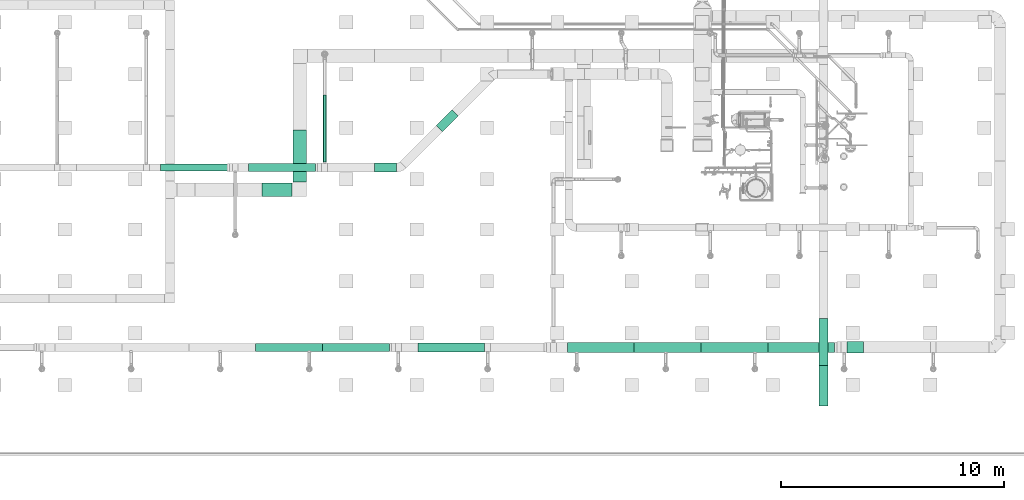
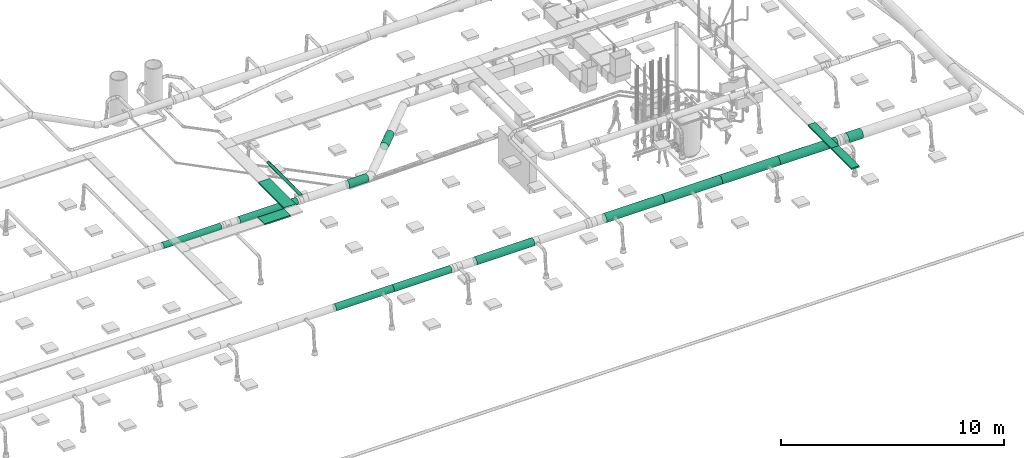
# One storey, part 4 of 374: 13 flow segments, 4 distribution elements.
"""IFC2X3 building model written with IfcOpenShell, lengths in metres."""

import ifcopenshell
import ifcopenshell.guid

model = None  # the IFC model being written
_history = None  # IfcOwnerHistory: only IFC2X3 demands one
_inside = {}  # id of a spatial element -> (the spatial element, [elements in it])
_under = {}  # id of a project, library or spatial element -> (it, [spatial elements below it])
_declared = {}  # id of a project -> (the project, [libraries it declares])
_typed = {}  # id of a type object -> (the type object, [elements of that type])
_made_of = {}  # id of a material, layer set ... -> (it, [elements and type objects made of it])


def new_model(schema):
    """Start an empty IFC model of exactly this schema.

    Asked for "IFC4X3", IfcOpenShell would pick the latest addendum, in which some entities
    have other attributes; the version numbers below select the first issue.
    IFC2X3 requires an IfcOwnerHistory on every rooted entity: one is made here for all.
    """
    global model, _history
    if schema == "IFC4X3":
        model = ifcopenshell.file(schema_version=(4, 3, 0, 0))
    else:
        model = ifcopenshell.file(schema=schema)
    _inside.clear()
    _under.clear()
    _declared.clear()
    _typed.clear()
    _made_of.clear()
    _history = None
    if model.schema == "IFC2X3":
        org = make("IfcOrganization", Name="unknown")
        user = make(
            "IfcPersonAndOrganization",
            ThePerson=make("IfcPerson", FamilyName="unknown"),
            TheOrganization=org,
        )
        app = make(
            "IfcApplication",
            ApplicationDeveloper=org,
            Version="unknown",
            ApplicationFullName="unknown",
            ApplicationIdentifier="unknown",
        )
        _history = make(
            "IfcOwnerHistory",
            OwningUser=user,
            OwningApplication=app,
            ChangeAction="ADDED",
            CreationDate=0,
        )
    return model


def make(cls, **values):
    """One entity of the class cls with the attributes given. An attribute that is None is left unset."""
    return model.create_entity(
        cls, **{name: value for name, value in values.items() if value is not None}
    )


def rooted(cls, **values):
    """An entity with a GlobalId (a new one), such as an element, a storey or a relation."""
    return make(cls, GlobalId=ifcopenshell.guid.new(), OwnerHistory=_history, **values)


def si_unit(unit_type, name, prefix=None):
    """IfcSIUnit, for example si_unit("LENGTHUNIT", "METRE", prefix="MILLI")."""
    return make("IfcSIUnit", UnitType=unit_type, Prefix=prefix, Name=name)


def assignment(units):
    """IfcUnitAssignment: the units of a project."""
    return None if units is None else make("IfcUnitAssignment", Units=units)


def point(xyz):
    """IfcCartesianPoint."""
    return None if xyz is None else make("IfcCartesianPoint", Coordinates=xyz)


def direction(xyz):
    """IfcDirection."""
    return None if xyz is None else make("IfcDirection", DirectionRatios=xyz)


def frame(location, z_axis=None, x_axis=None):
    """IfcAxis2Placement3D, a coordinate frame: its origin and axes. An axis left out is left unset."""
    return make(
        "IfcAxis2Placement3D",
        Location=point(location),
        Axis=direction(z_axis),
        RefDirection=direction(x_axis),
    )


def frame_2d(location, x_axis=None):
    """IfcAxis2Placement2D, a coordinate frame in the plane: its origin and x axis."""
    return make(
        "IfcAxis2Placement2D", Location=point(location), RefDirection=direction(x_axis)
    )


def origin():
    """The frame at (0, 0, 0) with its axes left unset."""
    return frame((0.0, 0.0, 0.0))


def place(relative_to, where):
    """IfcLocalPlacement: puts the frame where relative to a parent placement (None: the world)."""
    return make(
        "IfcLocalPlacement", PlacementRelTo=relative_to, RelativePlacement=where
    )


def context(
    kind, dimensions, precision=None, world=None, true_north=None, identifier=None
):
    """IfcGeometricRepresentationContext, for example the 3D "Model" context."""
    return make(
        "IfcGeometricRepresentationContext",
        ContextIdentifier=identifier,
        ContextType=kind,
        CoordinateSpaceDimension=dimensions,
        Precision=precision,
        WorldCoordinateSystem=world,
        TrueNorth=true_north,
    )


def subcontext(parent, identifier, kind, view, scale=None):
    """IfcGeometricRepresentationSubContext, for example "Body" below "Model"."""
    return make(
        "IfcGeometricRepresentationSubContext",
        ContextIdentifier=identifier,
        ContextType=kind,
        ParentContext=parent,
        TargetScale=scale,
        TargetView=view,
    )


def project(units=None, contexts=None):
    """IfcProject with its units and contexts."""
    return rooted(
        "IfcProject",
        Name="project",
        RepresentationContexts=contexts,
        UnitsInContext=assignment(units),
    )


def spatial(cls, under=None, at=None, **own):
    """A site, building, storey or space (cls), placed at a placement, below another one or the project."""
    s = rooted(cls, ObjectPlacement=at, **own)
    if under is not None:
        _under.setdefault(under.id(), (under, []))[1].append(s)
    return s


def profile(cls, at=None, kind="AREA", **sizes):
    """A parametric profile (cls). Its sizes go by their IFC names, for example OverallWidth=200.0."""
    return make(cls, ProfileType=kind, Position=at, **sizes)


def rectangle(**sizes):
    """IfcRectangleProfileDef."""
    return profile("IfcRectangleProfileDef", **sizes)


def extrude(swept, where, along, depth):
    """IfcExtrudedAreaSolid: the profile swept, set in the frame where, extruded along a direction by depth."""
    return make(
        "IfcExtrudedAreaSolid",
        SweptArea=swept,
        Position=where,
        ExtrudedDirection=direction(along),
        Depth=depth,
    )


def faces_of(points, faces, orient=None, outer=None):
    """IfcFace entities. A face is a list of loops; a loop is a list of indices into points, from 0.

    orient and outer hold one flag for each loop. By default every Orientation is true, the
    first loop of a face is its IfcFaceOuterBound and the others are IfcFaceBound.
    """
    made = []
    for i, loops in enumerate(faces):
        bounds = []
        for j, loop in enumerate(loops):
            is_outer = j == 0 if outer is None else outer[i][j]
            bounds.append(
                make(
                    "IfcFaceOuterBound" if is_outer else "IfcFaceBound",
                    Bound=make("IfcPolyLoop", Polygon=[points[k] for k in loop]),
                    Orientation=True if orient is None else orient[i][j],
                )
            )
        made.append(make("IfcFace", Bounds=bounds))
    return made


def open_shell(faces, orient=None, outer=None):
    """The faces of one IfcOpenShell. surface_model builds it on its shared points."""
    return ("IfcOpenShell", faces, orient, outer)


def surface_model(cls, points, shells):
    """IfcFaceBasedSurfaceModel or IfcShellBasedSurfaceModel (cls): surfaces that need not close."""
    shared = [point(p) for p in points]
    made = [make(c, CfsFaces=faces_of(shared, fs, o, b)) for c, fs, o, b in shells]
    if cls == "IfcFaceBasedSurfaceModel":
        return make(cls, FbsmFaces=made)
    return make(cls, SbsmBoundary=made)


def shape(context_of_items, identifier, shape_type, items):
    """IfcShapeRepresentation: the items that make up one representation, for example the "Body"."""
    return make(
        "IfcShapeRepresentation",
        ContextOfItems=context_of_items,
        RepresentationIdentifier=identifier,
        RepresentationType=shape_type,
        Items=items,
    )


def source(mapping_origin, context_of_items, identifier, shape_type, items):
    """IfcRepresentationMap: a shape defined once, which mapped items show again and again."""
    return make(
        "IfcRepresentationMap",
        MappingOrigin=mapping_origin,
        MappedRepresentation=shape(context_of_items, identifier, shape_type, items),
    )


def transform(
    local_origin,
    x_axis=None,
    y_axis=None,
    z_axis=None,
    scale=None,
    scale2=None,
    scale3=None,
    uniform=True,
):
    """IfcCartesianTransformationOperator3D, or its non-uniform kind. x_axis, y_axis, z_axis: its Axis1, 2, 3."""
    if uniform:
        return make(
            "IfcCartesianTransformationOperator3D",
            Axis1=direction(x_axis),
            Axis2=direction(y_axis),
            LocalOrigin=point(local_origin),
            Scale=scale,
            Axis3=direction(z_axis),
        )
    return make(
        "IfcCartesianTransformationOperator3DnonUniform",
        Axis1=direction(x_axis),
        Axis2=direction(y_axis),
        LocalOrigin=point(local_origin),
        Scale=scale,
        Axis3=direction(z_axis),
        Scale2=scale2,
        Scale3=scale3,
    )


def mapped(mapping_source, mapping_target):
    """IfcMappedItem: shows the shape of a source again, moved by a transform."""
    return make(
        "IfcMappedItem", MappingSource=mapping_source, MappingTarget=mapping_target
    )


def made_of(thing, what):
    """Note that an element or type object is made of a material, layer set ...; save() writes the relation."""
    if what is not None:
        _made_of.setdefault(what.id(), (what, []))[1].append(thing)
    return thing


def element(
    cls,
    number,
    at=None,
    inside=None,
    cuts=None,
    type_object=None,
    material=None,
    context=None,
    identifier="Body",
    shape_type=None,
    held_by="IfcProductDefinitionShape",
    body=None,
    shapes=None,
    **own,
):
    """One element of the class cls, such as IfcWall. Its Tag is "e" and its number.

    at: its placement. inside: the storey or other place that contains it. cuts: it is an
    opening in that element (IfcRelVoidsElement). A single representation is given by context,
    identifier, shape_type and body (its items); several are given by shapes. held_by: the class
    of the entity that holds the representations. save() writes the other relations.
    """
    e = rooted(cls, Tag="e%d" % number, ObjectPlacement=at, **own)
    if body is not None:
        shapes = [shape(context, identifier, shape_type, body)]
    if shapes is not None:
        e.Representation = make(held_by, Representations=shapes)
    if inside is not None:
        _inside.setdefault(inside.id(), (inside, []))[1].append(e)
    if cuts is not None:
        rooted(
            "IfcRelVoidsElement", RelatingBuildingElement=cuts, RelatedOpeningElement=e
        )
    if type_object is not None:
        _typed.setdefault(type_object.id(), (type_object, []))[1].append(e)
    return made_of(e, material)


def aggregate(whole, parts):
    """IfcRelAggregates: a whole, such as a stair, and the parts it consists of."""
    return rooted("IfcRelAggregates", RelatingObject=whole, RelatedObjects=parts)


def save(model, path):
    """Write the relations noted so far, then the file.

    IfcRelAggregates (storeys below a building ...), IfcRelContainedInSpatialStructure (elements
    in a storey), IfcRelDefinesByType, IfcRelAssociatesMaterial and IfcRelDeclares: one each for
    every whole, place, type object, material and project.
    """
    for whole, parts in _under.values():
        aggregate(whole, parts)
    for where, things in _inside.values():
        rooted(
            "IfcRelContainedInSpatialStructure",
            RelatedElements=things,
            RelatingStructure=where,
        )
    for kind, things in _typed.values():
        rooted("IfcRelDefinesByType", RelatedObjects=things, RelatingType=kind)
    for what, things in _made_of.values():
        rooted("IfcRelAssociatesMaterial", RelatedObjects=things, RelatingMaterial=what)
    for by, libraries in _declared.values():
        rooted("IfcRelDeclares", RelatingContext=by, RelatedDefinitions=libraries)
    model.write(path)


model = new_model("IFC2X3")

# Units and contexts
model_context = context("Model", 3, precision=1e-05, world=origin(), true_north=direction((-0.4480736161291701, 0.8939966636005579)))
body_context = subcontext(model_context, "Body", "Model", "MODEL_VIEW")
ifc_project = project(units=[si_unit("LENGTHUNIT", "METRE"), si_unit("AREAUNIT", "SQUARE_METRE"), si_unit("VOLUMEUNIT", "CUBIC_METRE"), si_unit("PLANEANGLEUNIT", "RADIAN"), si_unit("THERMODYNAMICTEMPERATUREUNIT", "KELVIN"), si_unit("MASSUNIT", "GRAM", prefix="KILO"), si_unit("TIMEUNIT", "SECOND")], contexts=[model_context])

# Site, building, storey
site_placement = place(None, origin())
site = spatial("IfcSite", under=ifc_project, at=site_placement, Name="Site 1", CompositionType="ELEMENT")
building_placement = place(site_placement, origin())
building = spatial("IfcBuilding", under=site, at=building_placement, Name="Undefined", CompositionType="ELEMENT")
storey_placement = place(building_placement, origin())
storey = spatial("IfcBuildingStorey", under=building, at=storey_placement, Name="Rez de chauss\x8ee", CompositionType="ELEMENT", Elevation=0.0)

# Flow segments
shared_shape_1 = source(origin(), body_context, "Body", "SurfaceModel", [
    surface_model("IfcFaceBasedSurfaceModel", [(0.0, 0.05221047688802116, -8.8817842e-16), (0.0, 0.0, 0.0), (3.0, 0.0, 0.0), (3.0, 0.05221047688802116, -8.8817842e-16), (0.0, -0.05043144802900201, -0.013513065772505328), (3.0, -0.05043144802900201, -0.013513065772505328), (0.0, -0.09564704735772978, -0.0396183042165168), (3.0, -0.09564704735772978, -0.0396183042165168), (0.0, -0.1325654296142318, -0.07653668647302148), (3.0, -0.1325654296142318, -0.07653668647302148), (0.0, -0.15867066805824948, -0.12175228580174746), (3.0, -0.15867066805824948, -0.12175228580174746), (0.0, -0.17218373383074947, -0.17218373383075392), (3.0, -0.17218373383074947, -0.17218373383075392), (0.0, -0.17218373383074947, -0.22439421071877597), (3.0, -0.17218373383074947, -0.22439421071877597), (0.0, -0.15867066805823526, -0.2748256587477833), (3.0, -0.15867066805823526, -0.2748256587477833), (0.0, -0.1325654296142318, -0.3200412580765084), (3.0, -0.1325654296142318, -0.3200412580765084), (0.0, -0.09564704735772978, -0.35695964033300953), (3.0, -0.09564704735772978, -0.35695964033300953), (0.0, -0.050431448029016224, -0.3830648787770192), (3.0, -0.050431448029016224, -0.3830648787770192), (0.0, 0.0, -0.39657794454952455), (3.0, 0.0, -0.39657794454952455), (0.0, 0.05221047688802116, -0.3965779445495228), (3.0, 0.05221047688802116, -0.3965779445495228), (0.0, 0.10264192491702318, -0.38306487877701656), (3.0, 0.10264192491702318, -0.38306487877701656), (0.0, 0.14785752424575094, -0.356959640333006), (3.0, 0.14785752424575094, -0.356959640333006), (0.0, 0.18477590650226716, -0.32004125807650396), (3.0, 0.18477590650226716, -0.32004125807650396), (0.0, 0.21088114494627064, -0.2748256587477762), (3.0, 0.21088114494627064, -0.2748256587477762), (0.0, 0.22439421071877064, -0.22439421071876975), (3.0, 0.22439421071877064, -0.22439421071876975), (0.0, 0.22439421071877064, -0.1721837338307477), (3.0, 0.22439421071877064, -0.1721837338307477), (0.0, 0.21088114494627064, -0.12175228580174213), (3.0, 0.21088114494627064, -0.12175228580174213), (0.0, 0.18477590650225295, -0.07653668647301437), (3.0, 0.18477590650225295, -0.07653668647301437), (0.0, 0.14785752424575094, -0.03961830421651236), (3.0, 0.14785752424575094, -0.03961830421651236), (0.0, 0.10264192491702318, -0.013513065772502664), (3.0, 0.10264192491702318, -0.013513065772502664)], [open_shell([[[0, 1, 2, 3]], [[1, 4, 5, 2]], [[4, 6, 7, 5]], [[6, 8, 9, 7]], [[8, 10, 11, 9]], [[10, 12, 13, 11]], [[12, 14, 15, 13]], [[14, 16, 17, 15]], [[16, 18, 19, 17]], [[18, 20, 21, 19]], [[20, 22, 23, 21]], [[22, 24, 25, 23]], [[24, 26, 27, 25]], [[26, 28, 29, 27]], [[28, 30, 31, 29]], [[30, 32, 33, 31]], [[32, 34, 35, 33]], [[34, 36, 37, 35]], [[36, 38, 39, 37]], [[38, 40, 41, 39]], [[40, 42, 43, 41]], [[42, 44, 45, 43]], [[44, 46, 47, 45]], [[46, 0, 3, 47]]])]),
])
flow_segment_1_placement = place(storey_placement, origin())
element("IfcFlowSegment", 1, at=flow_segment_1_placement, inside=storey, Name="Tube", ObjectType="Tube", context=body_context, shape_type="MappedRepresentation", body=[
    mapped(shared_shape_1, transform((42.16000111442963, 2.903061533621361, 3.9931851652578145), x_axis=(-1.0, 0.0, 0.0), y_axis=(7.266545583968e-12, -0.9914448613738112, 0.13052619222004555), z_axis=(0.0, 0.13052619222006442, 0.9914448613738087))),
])
shared_shape_2 = source(origin(), body_context, "Body", "SurfaceModel", [
    surface_model("IfcFaceBasedSurfaceModel", [(0.0, 0.046336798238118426, 0.0), (0.0, 0.0, 0.0), (3.0, 0.0, 0.0), (3.0, 0.046336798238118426, 0.0), (0.0, -0.044757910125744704, -0.0119928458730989), (3.0, -0.044757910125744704, -0.0119928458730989), (0.0, -0.08488675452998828, -0.035161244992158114), (3.0, -0.08488675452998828, -0.035161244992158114), (0.0, -0.11765181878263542, -0.06792630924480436), (3.0, -0.11765181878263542, -0.06792630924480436), (0.0, -0.1408202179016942, -0.10805515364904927), (3.0, -0.1408202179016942, -0.10805515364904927), (0.0, -0.15281306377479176, -0.15281306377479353), (3.0, -0.15281306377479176, -0.15281306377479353), (0.0, -0.1528130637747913, -0.19914986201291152), (3.0, -0.1528130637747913, -0.19914986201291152), (0.0, -0.14082021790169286, -0.24390777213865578), (3.0, -0.14082021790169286, -0.24390777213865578), (0.0, -0.11765181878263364, -0.2840366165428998), (3.0, -0.11765181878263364, -0.2840366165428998), (0.0, -0.0848867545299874, -0.31680168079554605), (3.0, -0.0848867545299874, -0.31680168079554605), (0.0, -0.044757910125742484, -0.3399700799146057), (3.0, -0.044757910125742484, -0.3399700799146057), (0.0, 1.776356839e-15, -0.35196292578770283), (3.0, 1.776356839e-15, -0.35196292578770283), (0.0, 0.0463367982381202, -0.3519629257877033), (3.0, 0.0463367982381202, -0.3519629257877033), (0.0, 0.09109470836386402, -0.3399700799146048), (3.0, 0.09109470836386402, -0.3399700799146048), (0.0, 0.13122355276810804, -0.31680168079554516), (3.0, 0.13122355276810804, -0.31680168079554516), (0.0, 0.16398861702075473, -0.2840366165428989), (3.0, 0.16398861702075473, -0.2840366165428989), (0.0, 0.18715701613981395, -0.243907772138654), (3.0, 0.18715701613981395, -0.243907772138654), (0.0, 0.19914986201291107, -0.19914986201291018), (3.0, 0.19914986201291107, -0.19914986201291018), (0.0, 0.19914986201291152, -0.15281306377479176), (3.0, 0.19914986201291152, -0.15281306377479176), (0.0, 0.18715701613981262, -0.1080551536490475), (3.0, 0.18715701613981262, -0.1080551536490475), (0.0, 0.1639886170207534, -0.06792630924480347), (3.0, 0.1639886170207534, -0.06792630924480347), (0.0, 0.1312235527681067, -0.03516124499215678), (3.0, 0.1312235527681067, -0.03516124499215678), (0.0, 0.09109470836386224, -0.011992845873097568), (3.0, 0.09109470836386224, -0.011992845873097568)], [open_shell([[[0, 1, 2, 3]], [[1, 4, 5, 2]], [[4, 6, 7, 5]], [[6, 8, 9, 7]], [[8, 10, 11, 9]], [[10, 12, 13, 11]], [[12, 14, 15, 13]], [[14, 16, 17, 15]], [[16, 18, 19, 17]], [[18, 20, 21, 19]], [[20, 22, 23, 21]], [[22, 24, 25, 23]], [[24, 26, 27, 25]], [[26, 28, 29, 27]], [[28, 30, 31, 29]], [[30, 32, 33, 31]], [[32, 34, 35, 33]], [[34, 36, 37, 35]], [[36, 38, 39, 37]], [[38, 40, 41, 39]], [[40, 42, 43, 41]], [[42, 44, 45, 43]], [[44, 46, 47, 45]], [[46, 0, 3, 47]]])]),
])
flow_segment_2_placement = place(storey_placement, origin())
element("IfcFlowSegment", 2, at=flow_segment_2_placement, inside=storey, Name="Tube", ObjectType="Tube", context=body_context, shape_type="MappedRepresentation", body=[
    mapped(shared_shape_2, transform((34.568995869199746, 10.9651343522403, 3.9714518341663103), x_axis=(-1.0, 0.0, 0.0), y_axis=(7.266545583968e-12, -0.9914448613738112, 0.13052619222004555), z_axis=(0.0, 0.13052619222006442, 0.9914448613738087))),
])
flow_segment_3_placement = place(storey_placement, origin())
element("IfcFlowSegment", 3, at=flow_segment_3_placement, inside=storey, Name="Tube", ObjectType="Tube", context=body_context, shape_type="MappedRepresentation", body=[
    mapped(shared_shape_2, transform((37.883001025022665, 2.897238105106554, 3.9714518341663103), x_axis=(-1.0, 0.0, 0.0), y_axis=(7.266545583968e-12, -0.9914448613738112, 0.13052619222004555), z_axis=(0.0, 0.13052619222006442, 0.9914448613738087))),
])
flow_segment_4_placement = place(storey_placement, origin())
element("IfcFlowSegment", 4, at=flow_segment_4_placement, inside=storey, Name="Tube", ObjectType="Tube", context=body_context, shape_type="MappedRepresentation", body=[
    mapped(shared_shape_2, transform((34.883001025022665, 2.897238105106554, 3.9714518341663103), x_axis=(-1.0, 0.0, 0.0), y_axis=(7.266545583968e-12, -0.9914448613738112, 0.13052619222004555), z_axis=(0.0, 0.13052619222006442, 0.9914448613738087))),
])
shared_shape_3 = source(origin(), body_context, "Body", "SurfaceModel", [
    surface_model("IfcFaceBasedSurfaceModel", [(0.0, 0.04111575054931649, 0.0), (0.0, 0.0, 0.0), (3.0, 0.0, 0.0), (3.0, 0.04111575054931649, 0.0), (0.0, -0.03971476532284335, -0.010641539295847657), (3.0, -0.03971476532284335, -0.010641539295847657), (0.0, -0.0753220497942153, -0.0311994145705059), (3.0, -0.0753220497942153, -0.0311994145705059), (0.0, -0.10439527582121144, -0.060272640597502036), (3.0, -0.10439527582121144, -0.060272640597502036), (0.0, -0.12495315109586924, -0.09587992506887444), (3.0, -0.12495315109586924, -0.09587992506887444), (0.0, -0.13559469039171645, -0.13559469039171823), (3.0, -0.13559469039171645, -0.13559469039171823), (0.0, -0.135594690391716, -0.17671044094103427), (3.0, -0.135594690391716, -0.17671044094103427), (0.0, -0.1249531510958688, -0.21642520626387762), (3.0, -0.1249531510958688, -0.21642520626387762), (0.0, -0.10439527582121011, -0.2520324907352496), (3.0, -0.10439527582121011, -0.2520324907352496), (0.0, -0.07532204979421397, -0.2811057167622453), (3.0, -0.07532204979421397, -0.2811057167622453), (0.0, -0.039714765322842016, -0.3016635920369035), (3.0, -0.039714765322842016, -0.3016635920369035), (0.0, 1.776356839e-15, -0.3123051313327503), (3.0, 1.776356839e-15, -0.3123051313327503), (0.0, 0.041115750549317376, -0.31230513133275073), (3.0, 0.041115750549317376, -0.31230513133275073), (0.0, 0.08083051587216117, -0.30166359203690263), (3.0, 0.08083051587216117, -0.30166359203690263), (0.0, 0.11643780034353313, -0.28110571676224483), (3.0, 0.11643780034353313, -0.28110571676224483), (0.0, 0.14551102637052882, -0.25203249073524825), (3.0, 0.14551102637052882, -0.25203249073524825), (0.0, 0.16606890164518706, -0.2164252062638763), (3.0, 0.16606890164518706, -0.2164252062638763), (0.0, 0.17671044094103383, -0.1767104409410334), (3.0, 0.17671044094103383, -0.1767104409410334), (0.0, 0.17671044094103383, -0.1355946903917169), (3.0, 0.17671044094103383, -0.1355946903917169), (0.0, 0.16606890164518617, -0.09587992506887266), (3.0, 0.16606890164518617, -0.09587992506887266), (0.0, 0.14551102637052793, -0.06027264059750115), (3.0, 0.14551102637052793, -0.06027264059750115), (0.0, 0.1164378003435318, -0.031199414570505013), (3.0, 0.1164378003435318, -0.031199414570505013), (0.0, 0.08083051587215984, -0.010641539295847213), (3.0, 0.08083051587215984, -0.010641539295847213)], [open_shell([[[0, 1, 2, 3]], [[1, 4, 5, 2]], [[4, 6, 7, 5]], [[6, 8, 9, 7]], [[8, 10, 11, 9]], [[10, 12, 13, 11]], [[12, 14, 15, 13]], [[14, 16, 17, 15]], [[16, 18, 19, 17]], [[18, 20, 21, 19]], [[20, 22, 23, 21]], [[22, 24, 25, 23]], [[24, 26, 27, 25]], [[26, 28, 29, 27]], [[28, 30, 31, 29]], [[30, 32, 33, 31]], [[32, 34, 35, 33]], [[34, 36, 37, 35]], [[36, 38, 39, 37]], [[38, 40, 41, 39]], [[40, 42, 43, 41]], [[42, 44, 45, 43]], [[44, 46, 47, 45]], [[46, 0, 3, 47]]])]),
])
flow_segment_5_placement = place(storey_placement, origin())
element("IfcFlowSegment", 5, at=flow_segment_5_placement, inside=storey, Name="Tube", ObjectType="Tube", context=body_context, shape_type="MappedRepresentation", body=[
    mapped(shared_shape_3, transform((30.614625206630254, 10.95995797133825, 3.952133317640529), x_axis=(-1.0, 0.0, 0.0), y_axis=(7.266545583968e-12, -0.9914448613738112, 0.13052619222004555), z_axis=(0.0, 0.13052619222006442, 0.9914448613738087))),
])
shared_shape_4 = source(origin(), body_context, "Body", "SurfaceModel", [
    surface_model("IfcFaceBasedSurfaceModel", [(0.0, 0.020884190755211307, 0.0), (0.0, 0.0, 0.0), (3.0, 0.0, 0.0), (3.0, 0.020884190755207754, -4.4408921e-16), (0.0, -0.020172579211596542, -0.005405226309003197), (3.0, -0.020172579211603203, -0.005405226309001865), (0.0, -0.03825881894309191, -0.015847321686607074), (3.0, -0.03825881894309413, -0.015847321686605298), (0.0, -0.05302617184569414, -0.0306146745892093), (3.0, -0.053026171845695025, -0.030614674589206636), (0.0, -0.06346826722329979, -0.04870091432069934), (3.0, -0.06346826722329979, -0.04870091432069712), (0.0, -0.06887349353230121, -0.06887349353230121), (3.0, -0.0688734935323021, -0.06887349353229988), (0.0, -0.06887349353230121, -0.08975768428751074), (3.0, -0.0688734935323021, -0.08975768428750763), (0.0, -0.06346826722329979, -0.10993026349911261), (3.0, -0.06346826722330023, -0.10993026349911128), (0.0, -0.05302617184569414, -0.12801650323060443), (3.0, -0.0530261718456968, -0.12801650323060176), (0.0, -0.038258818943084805, -0.14278385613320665), (3.0, -0.03825881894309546, -0.1427838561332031), (0.0, -0.020172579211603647, -0.15322595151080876), (3.0, -0.020172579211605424, -0.15322595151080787), (0.0, 7.105427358e-15, -0.15863117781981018), (3.0, -2.664535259e-15, -0.15863117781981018), (0.0, 0.020884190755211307, -0.15863117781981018), (3.0, 0.020884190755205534, -0.15863117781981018), (0.0, 0.04105676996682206, -0.15322595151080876), (3.0, 0.04105676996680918, -0.1532259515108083), (0.0, 0.05914300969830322, -0.1427838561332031), (3.0, 0.059143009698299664, -0.14278385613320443), (0.0, 0.07391036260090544, -0.12801650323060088), (3.0, 0.073910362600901, -0.12801650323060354), (0.0, 0.0843524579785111, -0.10993026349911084), (3.0, 0.08435245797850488, -0.10993026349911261), (0.0, 0.08975768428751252, -0.08975768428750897), (3.0, 0.08975768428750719, -0.08975768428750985), (0.0, 0.08975768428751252, -0.06887349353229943), (3.0, 0.08975768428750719, -0.0688734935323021), (0.0, 0.0843524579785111, -0.048700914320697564), (3.0, 0.08435245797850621, -0.048700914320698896), (0.0, 0.07391036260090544, -0.030614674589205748), (3.0, 0.07391036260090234, -0.03061467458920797), (0.0, 0.05914300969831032, -0.015847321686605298), (3.0, 0.05914300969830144, -0.015847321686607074), (0.0, 0.04105676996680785, -0.005405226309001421), (3.0, 0.041056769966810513, -0.005405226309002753)], [open_shell([[[0, 1, 2, 3]], [[1, 4, 5, 2]], [[4, 6, 7, 5]], [[6, 8, 9, 7]], [[8, 10, 11, 9]], [[10, 12, 13, 11]], [[12, 14, 15, 13]], [[14, 16, 17, 15]], [[16, 18, 19, 17]], [[18, 20, 21, 19]], [[20, 22, 23, 21]], [[22, 24, 25, 23]], [[24, 26, 27, 25]], [[26, 28, 29, 27]], [[28, 30, 31, 29]], [[30, 32, 33, 31]], [[32, 34, 35, 33]], [[34, 36, 37, 35]], [[36, 38, 39, 37]], [[38, 40, 41, 39]], [[40, 42, 43, 41]], [[42, 44, 45, 43]], [[44, 46, 47, 45]], [[46, 0, 3, 47]]])]),
])
flow_segment_6_placement = place(storey_placement, origin())
element("IfcFlowSegment", 6, at=flow_segment_6_placement, inside=storey, Name="Tube", ObjectType="Tube", context=body_context, shape_type="MappedRepresentation", body=[
    mapped(shared_shape_4, transform((34.99670139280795, 11.169193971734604, 3.877274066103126), x_axis=(0.0, 1.0, 0.0), y_axis=(-0.9914448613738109, 0.0, 0.1305261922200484), z_axis=(0.1305261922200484, 0.0, 0.9914448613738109))),
])
shared_shape_5 = source(origin(), body_context, "Body", "SurfaceModel", [
    surface_model("IfcFaceBasedSurfaceModel", [(0.0, 0.05873678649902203, -2.77555756e-16), (0.0, 0.0, 0.0), (3.0, 0.0, 0.0), (3.0, 0.05873678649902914, 8.8817842e-16), (0.0, -0.05673537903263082, -0.015202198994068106), (3.0, -0.05673537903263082, -0.015202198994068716), (0.0, -0.10760292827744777, -0.044570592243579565), (3.0, -0.10760292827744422, -0.04457059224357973), (0.0, -0.14913610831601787, -0.08610377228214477), (3.0, -0.14913610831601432, -0.08610377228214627), (0.0, -0.1785045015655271, -0.13697132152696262), (3.0, -0.17850450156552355, -0.13697132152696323), (0.0, -0.19370670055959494, -0.1937067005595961), (3.0, -0.19370670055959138, -0.1937067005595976), (0.0, -0.19370670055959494, -0.252443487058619), (3.0, -0.19370670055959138, -0.25244348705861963), (0.0, -0.1785045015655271, -0.30917886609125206), (3.0, -0.1785045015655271, -0.309178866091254), (0.0, -0.14913610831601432, -0.36004641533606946), (3.0, -0.1491361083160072, -0.36004641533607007), (0.0, -0.10760292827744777, -0.40157959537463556), (3.0, -0.10760292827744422, -0.4015795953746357), (0.0, -0.05673537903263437, -0.43094798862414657), (3.0, -0.05673537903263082, -0.43094798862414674), (0.0, 0.0, -0.4461501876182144), (3.0, 1.0658141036e-14, -0.44615018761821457), (0.0, 0.058736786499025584, -0.4461501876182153), (3.0, 0.05873678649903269, -0.44615018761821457), (0.0, 0.1154721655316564, -0.430947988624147), (3.0, 0.1154721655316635, -0.43094798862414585), (0.0, 0.16633971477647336, -0.4015795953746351), (3.0, 0.16633971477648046, -0.40157959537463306), (0.0, 0.20787289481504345, -0.3600464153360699), (3.0, 0.207872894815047, -0.3600464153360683), (0.0, 0.23724128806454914, -0.3091788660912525), (3.0, 0.23724128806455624, -0.30917886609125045), (0.0, 0.25244348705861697, -0.25244348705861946), (3.0, 0.25244348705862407, -0.25244348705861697), (0.0, 0.25244348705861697, -0.1937067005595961), (3.0, 0.25244348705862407, -0.19370670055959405), (0.0, 0.2372412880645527, -0.13697132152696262), (3.0, 0.2372412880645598, -0.13697132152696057), (0.0, 0.2078728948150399, -0.08610377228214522), (3.0, 0.20787289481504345, -0.08610377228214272), (0.0, 0.16633971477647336, -0.044570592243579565), (3.0, 0.1663397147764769, -0.044570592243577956), (0.0, 0.11547216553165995, -0.01520219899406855), (3.0, 0.1154721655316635, -0.01520219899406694)], [open_shell([[[0, 1, 2, 3]], [[1, 4, 5, 2]], [[4, 6, 7, 5]], [[6, 8, 9, 7]], [[8, 10, 11, 9]], [[10, 12, 13, 11]], [[12, 14, 15, 13]], [[14, 16, 17, 15]], [[16, 18, 19, 17]], [[18, 20, 21, 19]], [[20, 22, 23, 21]], [[22, 24, 25, 23]], [[24, 26, 27, 25]], [[26, 28, 29, 27]], [[28, 30, 31, 29]], [[30, 32, 33, 31]], [[32, 34, 35, 33]], [[34, 36, 37, 35]], [[36, 38, 39, 37]], [[38, 40, 41, 39]], [[40, 42, 43, 41]], [[42, 44, 45, 43]], [[44, 46, 47, 45]], [[46, 0, 3, 47]]])]),
])
flow_segment_7_placement = place(storey_placement, origin())
element("IfcFlowSegment", 7, at=flow_segment_7_placement, inside=storey, Name="Tube", ObjectType="Tube", context=body_context, shape_type="MappedRepresentation", body=[
    mapped(shared_shape_5, transform((57.8710014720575, 2.909532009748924, 4.017333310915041), x_axis=(-1.0, 0.0, 0.0), y_axis=(7.266545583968e-12, -0.9914448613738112, 0.13052619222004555), z_axis=(0.0, 0.13052619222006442, 0.9914448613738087))),
])
flow_segment_8_placement = place(storey_placement, origin())
element("IfcFlowSegment", 8, at=flow_segment_8_placement, inside=storey, Name="Tube", ObjectType="Tube", context=body_context, shape_type="MappedRepresentation", body=[
    mapped(shared_shape_5, transform((54.8710014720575, 2.909532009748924, 4.017333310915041), x_axis=(-1.0, 0.0, 0.0), y_axis=(7.266545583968e-12, -0.9914448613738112, 0.13052619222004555), z_axis=(0.0, 0.13052619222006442, 0.9914448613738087))),
])
flow_segment_9_placement = place(storey_placement, origin())
element("IfcFlowSegment", 9, at=flow_segment_9_placement, inside=storey, Name="Tube", ObjectType="Tube", context=body_context, shape_type="MappedRepresentation", body=[
    mapped(shared_shape_5, transform((51.8710014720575, 2.909532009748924, 4.017333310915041), x_axis=(-1.0, 0.0, 0.0), y_axis=(7.266545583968e-12, -0.9914448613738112, 0.13052619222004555), z_axis=(0.0, 0.13052619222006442, 0.9914448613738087))),
])
flow_segment_10_placement = place(storey_placement, origin())
element("IfcFlowSegment", 10, at=flow_segment_10_placement, inside=storey, Name="Tube", ObjectType="Tube", context=body_context, shape_type="MappedRepresentation", body=[
    mapped(shared_shape_5, transform((48.8710014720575, 2.909532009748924, 4.017333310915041), x_axis=(-1.0, 0.0, 0.0), y_axis=(7.266545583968e-12, -0.9914448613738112, 0.13052619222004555), z_axis=(0.0, 0.13052619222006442, 0.9914448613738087))),
])
shared_shape_6 = source(origin(), body_context, "Body", "SurfaceModel", [
    surface_model("IfcFaceBasedSurfaceModel", [(0.0, 0.0652630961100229, -3.552713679e-15), (0.0, 0.0, 0.0), (0.7400000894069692, 4.4408921e-16, 0.0), (0.7400000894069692, 0.06526309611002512, 0.0), (0.0, -0.06303931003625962, -0.01689133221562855), (0.7400000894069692, -0.06303931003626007, -0.016891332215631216), (0.0, -0.11955880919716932, -0.049522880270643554), (0.7400000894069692, -0.1195588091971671, -0.04952288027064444), (0.0, -0.1657067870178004, -0.09567085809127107), (0.7400000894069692, -0.16570678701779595, -0.09567085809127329), (0.0, -0.1983383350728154, -0.15219035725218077), (0.7400000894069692, -0.19833833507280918, -0.15219035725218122), (0.0, -0.2152296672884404, -0.2152296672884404), (0.7400000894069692, -0.21522966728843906, -0.21522966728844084), (0.0, -0.2152296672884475, -0.28049276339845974), (0.7400000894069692, -0.21522966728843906, -0.2804927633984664), (0.0, -0.1983383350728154, -0.3435320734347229), (0.7400000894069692, -0.19833833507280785, -0.343532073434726), (0.0, -0.1657067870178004, -0.4000515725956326), (0.7400000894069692, -0.16570678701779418, -0.40005157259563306), (0.0, -0.11955880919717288, -0.44619955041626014), (0.7400000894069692, -0.11955880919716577, -0.4461995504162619), (0.0, -0.06303931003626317, -0.47883109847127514), (0.7400000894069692, -0.0630393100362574, -0.47883109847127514), (0.0, -7.105427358e-15, -0.49572243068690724), (0.7400000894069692, 1.776356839e-15, -0.49572243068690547), (0.0, 0.0652630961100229, -0.4957224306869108), (0.7400000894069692, 0.06526309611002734, -0.495722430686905), (0.0, 0.12830240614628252, -0.47883109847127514), (0.7400000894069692, 0.12830240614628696, -0.4788310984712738), (0.0, 0.18482190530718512, -0.4461995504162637), (0.7400000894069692, 0.18482190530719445, -0.44619955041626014), (0.0, 0.2309698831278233, -0.4000515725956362), (0.7400000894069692, 0.2309698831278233, -0.40005157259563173), (0.0, 0.26360143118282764, -0.34353207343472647), (0.7400000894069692, 0.2636014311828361, -0.3435320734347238), (0.0, 0.2804927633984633, -0.2804927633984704), (0.7400000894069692, 0.2804927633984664, -0.2804927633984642), (0.0, 0.28049276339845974, -0.2152296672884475), (0.7400000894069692, 0.28049276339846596, -0.21522966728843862), (0.0, 0.2636014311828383, -0.15219035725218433), (0.7400000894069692, 0.2636014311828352, -0.152190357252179), (0.0, 0.2309698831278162, -0.09567085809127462), (0.7400000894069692, 0.23096988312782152, -0.09567085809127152), (0.0, 0.18482190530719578, -0.049522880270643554), (0.7400000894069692, 0.18482190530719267, -0.04952288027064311), (0.0, 0.12830240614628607, -0.016891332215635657), (0.7400000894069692, 0.12830240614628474, -0.016891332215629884)], [open_shell([[[0, 1, 2, 3]], [[1, 4, 5, 2]], [[4, 6, 7, 5]], [[6, 8, 9, 7]], [[8, 10, 11, 9]], [[10, 12, 13, 11]], [[12, 14, 15, 13]], [[14, 16, 17, 15]], [[16, 18, 19, 17]], [[18, 20, 21, 19]], [[20, 22, 23, 21]], [[22, 24, 25, 23]], [[24, 26, 27, 25]], [[26, 28, 29, 27]], [[28, 30, 31, 29]], [[30, 32, 33, 31]], [[32, 34, 35, 33]], [[34, 36, 37, 35]], [[36, 38, 39, 37]], [[38, 40, 41, 39]], [[40, 42, 43, 41]], [[42, 44, 45, 43]], [[44, 46, 47, 45]], [[46, 0, 3, 47]]])]),
])
flow_segment_11_placement = place(storey_placement, origin())
element("IfcFlowSegment", 11, at=flow_segment_11_placement, inside=storey, Name="Tube", ObjectType="Tube", context=body_context, shape_type="MappedRepresentation", body=[
    mapped(shared_shape_6, transform((59.16000156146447, 2.916002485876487, 4.041481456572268), x_axis=(-1.0, 0.0, 0.0), y_axis=(7.266545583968e-12, -0.9914448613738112, 0.13052619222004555), z_axis=(0.0, 0.13052619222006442, 0.9914448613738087))),
])
shared_shape_7 = source(origin(), body_context, "Body", "SurfaceModel", [
    surface_model("IfcFaceBasedSurfaceModel", [(0.0, 0.05221047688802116, -8.8817842e-16), (0.0, 0.0, 0.0), (1.0, 0.0, 0.0), (1.0, 0.05221047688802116, 0.0), (0.0, -0.05043144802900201, -0.013513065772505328), (1.0, -0.05043144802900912, -0.013513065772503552), (0.0, -0.09564704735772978, -0.0396183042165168), (1.0, -0.09564704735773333, -0.03961830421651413), (0.0, -0.1325654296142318, -0.07653668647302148), (1.0, -0.1325654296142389, -0.07653668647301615), (0.0, -0.15867066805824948, -0.12175228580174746), (1.0, -0.15867066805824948, -0.12175228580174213), (0.0, -0.17218373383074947, -0.17218373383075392), (1.0, -0.17218373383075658, -0.17218373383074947), (0.0, -0.17218373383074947, -0.22439421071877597), (1.0, -0.17218373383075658, -0.22439421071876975), (0.0, -0.15867066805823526, -0.2748256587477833), (1.0, -0.15867066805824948, -0.274825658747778), (0.0, -0.1325654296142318, -0.3200412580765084), (1.0, -0.1325654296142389, -0.32004125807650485), (0.0, -0.09564704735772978, -0.35695964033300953), (1.0, -0.09564704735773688, -0.35695964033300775), (0.0, -0.050431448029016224, -0.3830648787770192), (1.0, -0.05043144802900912, -0.38306487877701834), (0.0, 0.0, -0.39657794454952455), (1.0, -3.552713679e-15, -0.39657794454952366), (0.0, 0.05221047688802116, -0.3965779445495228), (1.0, 0.05221047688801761, -0.39657794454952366), (0.0, 0.10264192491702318, -0.38306487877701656), (1.0, 0.10264192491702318, -0.3830648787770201), (0.0, 0.14785752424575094, -0.356959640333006), (1.0, 0.14785752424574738, -0.35695964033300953), (0.0, 0.18477590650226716, -0.32004125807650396), (1.0, 0.1847759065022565, -0.3200412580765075), (0.0, 0.21088114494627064, -0.2748256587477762), (1.0, 0.21088114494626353, -0.27482565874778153), (0.0, 0.22439421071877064, -0.22439421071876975), (1.0, 0.22439421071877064, -0.2243942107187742), (0.0, 0.22439421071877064, -0.1721837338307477), (1.0, 0.22439421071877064, -0.17218373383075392), (0.0, 0.21088114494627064, -0.12175228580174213), (1.0, 0.21088114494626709, -0.12175228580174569), (0.0, 0.18477590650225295, -0.07653668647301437), (1.0, 0.1847759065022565, -0.07653668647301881), (0.0, 0.14785752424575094, -0.03961830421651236), (1.0, 0.14785752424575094, -0.03961830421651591), (0.0, 0.10264192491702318, -0.013513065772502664), (1.0, 0.10264192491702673, -0.013513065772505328)], [open_shell([[[0, 1, 2, 3]], [[1, 4, 5, 2]], [[4, 6, 7, 5]], [[6, 8, 9, 7]], [[8, 10, 11, 9]], [[10, 12, 13, 11]], [[12, 14, 15, 13]], [[14, 16, 17, 15]], [[16, 18, 19, 17]], [[18, 20, 21, 19]], [[20, 22, 23, 21]], [[22, 24, 25, 23]], [[24, 26, 27, 25]], [[26, 28, 29, 27]], [[28, 30, 31, 29]], [[30, 32, 33, 31]], [[32, 34, 35, 33]], [[34, 36, 37, 35]], [[36, 38, 39, 37]], [[38, 40, 41, 39]], [[40, 42, 43, 41]], [[42, 44, 45, 43]], [[44, 46, 47, 45]], [[46, 0, 3, 47]]])]),
])
flow_segment_12_placement = place(storey_placement, origin())
element("IfcFlowSegment", 12, at=flow_segment_12_placement, inside=storey, Name="Tube", ObjectType="Tube", context=body_context, shape_type="MappedRepresentation", body=[
    mapped(shared_shape_7, transform((38.21138707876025, 10.970957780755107, 3.9931851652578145), x_axis=(-1.0, 0.0, 0.0), y_axis=(7.266545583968e-12, -0.9914448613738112, 0.13052619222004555), z_axis=(0.0, 0.13052619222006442, 0.9914448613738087))),
])
flow_segment_13_placement = place(storey_placement, origin())
element("IfcFlowSegment", 13, at=flow_segment_13_placement, inside=storey, Name="Tube", ObjectType="Tube", context=body_context, shape_type="MappedRepresentation", body=[
    mapped(shared_shape_7, transform((40.08847740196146, 12.703803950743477, 3.6068148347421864), x_axis=(0.7071067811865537, 0.7071067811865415, -8.5491534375e-14), y_axis=(0.7010573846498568, -0.7010573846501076, -0.13052619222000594), z_axis=(-0.09229595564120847, 0.09229595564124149, -0.9914448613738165))),
])

# Distribution elements
distribution_element_1_placement = place(storey_placement, origin())
element("IfcDistributionElement", 14, at=distribution_element_1_placement, inside=storey, Name="Chemin(s) de câbles", ObjectType="Chemin(s) de câbles", context=body_context, shape_type="SweptSolid", body=[
    extrude(rectangle(XDim=0.4, YDim=0.08, at=frame_2d((3.552713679e-15, 0.0), x_axis=(-1.0, 0.0))), frame((57.36899699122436, 2.039, 4.14), z_axis=(0.0, -1.0, 0.0), x_axis=(1.0, 0.0, 0.0)), (0.0, 0.0, 1.0), 1.831906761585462),
])
distribution_element_2_placement = place(storey_placement, origin())
element("IfcDistributionElement", 15, at=distribution_element_2_placement, inside=storey, Name="Chemin(s) de câbles", ObjectType="Chemin(s) de câbles", context=body_context, shape_type="SweptSolid", body=[
    extrude(rectangle(XDim=0.4, YDim=0.08, at=frame_2d((3.552713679e-15, 0.0), x_axis=(-1.0, 0.0))), frame((57.36899699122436, 4.143616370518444, 4.14), z_axis=(0.0, -1.0, 0.0), x_axis=(1.0, 0.0, 0.0)), (0.0, 0.0, 1.0), 2.1046163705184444),
])
distribution_element_3_placement = place(storey_placement, origin())
element("IfcDistributionElement", 16, at=distribution_element_3_placement, inside=storey, Name="Chemin(s) de câbles", ObjectType="Chemin(s) de câbles", context=body_context, shape_type="SweptSolid", body=[
    extrude(rectangle(XDim=0.6, YDim=0.08, at=frame_2d((3.552713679e-15, 0.0), x_axis=(-1.0, 0.0))), frame((33.861000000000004, 12.593637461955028, 4.14), z_axis=(0.0, -1.0, 0.0), x_axis=(1.0, 0.0, 0.0)), (0.0, 0.0, 1.0), 2.3172677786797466),
])
distribution_element_4_placement = place(storey_placement, origin())
element("IfcDistributionElement", 17, at=distribution_element_4_placement, inside=storey, Name="Chemin(s) de câbles", ObjectType="Chemin(s) de câbles", context=body_context, shape_type="SweptSolid", body=[
    extrude(rectangle(XDim=0.6, YDim=0.08, at=frame_2d((3.552713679e-15, 0.0), x_axis=(-1.0, 0.0))), frame((32.160999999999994, 9.926369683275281, 4.14), z_axis=(1.0, 0.0, 0.0), x_axis=(0.0, 1.0, 0.0)), (0.0, 0.0, 1.0), 1.3500000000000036),
])

save(model, "model.ifc")
